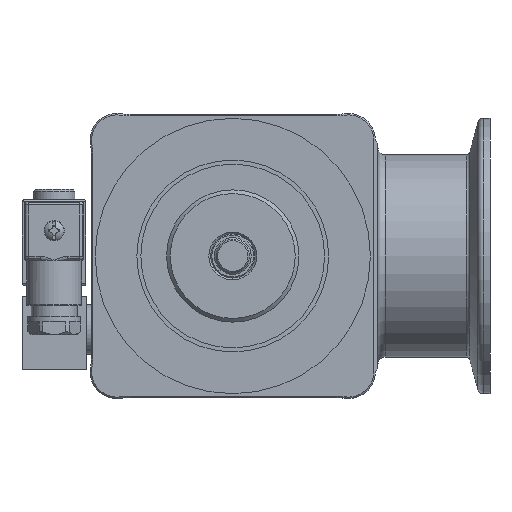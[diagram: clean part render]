
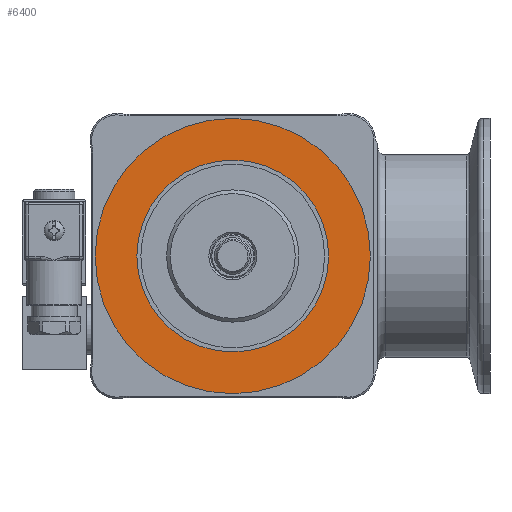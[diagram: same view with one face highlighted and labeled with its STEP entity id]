
A CAD part, front view. The second image highlights one B-rep face of the part: STEP entity #6400.
In plain terms, the highlighted planar face has unit normal (0, -1, 0).
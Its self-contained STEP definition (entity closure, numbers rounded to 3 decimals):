
#5746=FACE_BOUND('',#8277,.T.);
#5747=FACE_BOUND('',#8278,.T.);
#6400=ADVANCED_FACE('',(#5746,#5747),#6984,.F.);
#6984=PLANE('',#16078);
#8277=EDGE_LOOP('',(#10715));
#8278=EDGE_LOOP('',(#10716));
#10715=ORIENTED_EDGE('',*,*,#14254,.F.);
#10716=ORIENTED_EDGE('',*,*,#14253,.T.);
#12780=VERTEX_POINT('',#23349);
#12781=VERTEX_POINT('',#23352);
#14253=EDGE_CURVE('',#12780,#12780,#15172,.T.);
#14254=EDGE_CURVE('',#12781,#12781,#15173,.T.);
#15172=CIRCLE('',#16075,26.1);
#15173=CIRCLE('',#16077,37.46);
#16075=AXIS2_PLACEMENT_3D('',#23348,#18651,#18652);
#16077=AXIS2_PLACEMENT_3D('',#23351,#18655,#18656);
#16078=AXIS2_PLACEMENT_3D('',#23353,#18657,#18658);
#18651=DIRECTION('',(0.,1.,0.));
#18652=DIRECTION('',(-1.,0.,0.));
#18655=DIRECTION('',(0.,1.,0.));
#18656=DIRECTION('',(-1.,0.,0.));
#18657=DIRECTION('',(0.,1.,0.));
#18658=DIRECTION('',(-1.,0.,0.));
#23348=CARTESIAN_POINT('',(0.,-32.5,0.));
#23349=CARTESIAN_POINT('',(-26.1,-32.5,0.));
#23351=CARTESIAN_POINT('',(0.,-32.5,0.));
#23352=CARTESIAN_POINT('',(-37.46,-32.5,0.));
#23353=CARTESIAN_POINT('',(26.1,-32.5,0.));
